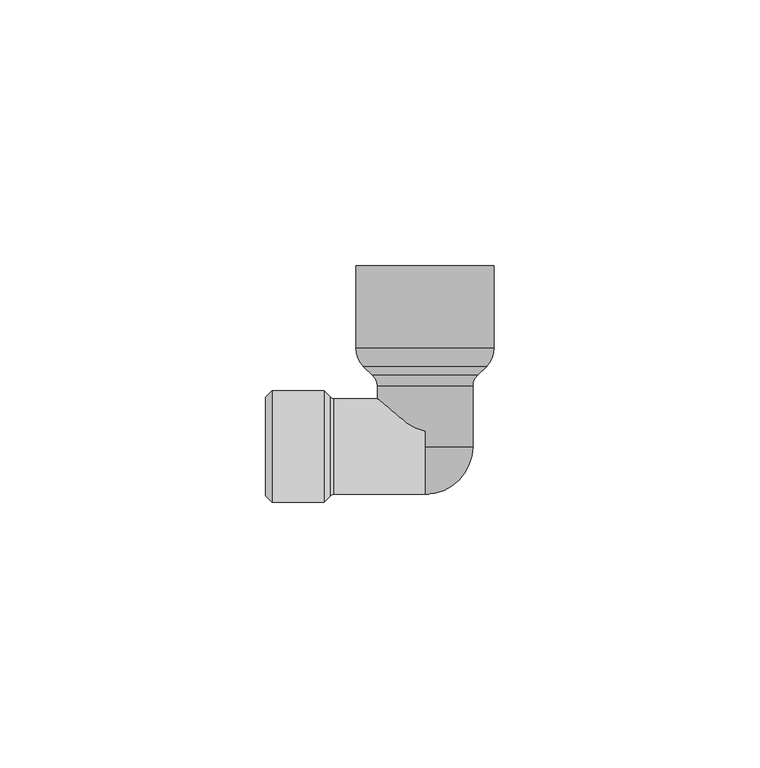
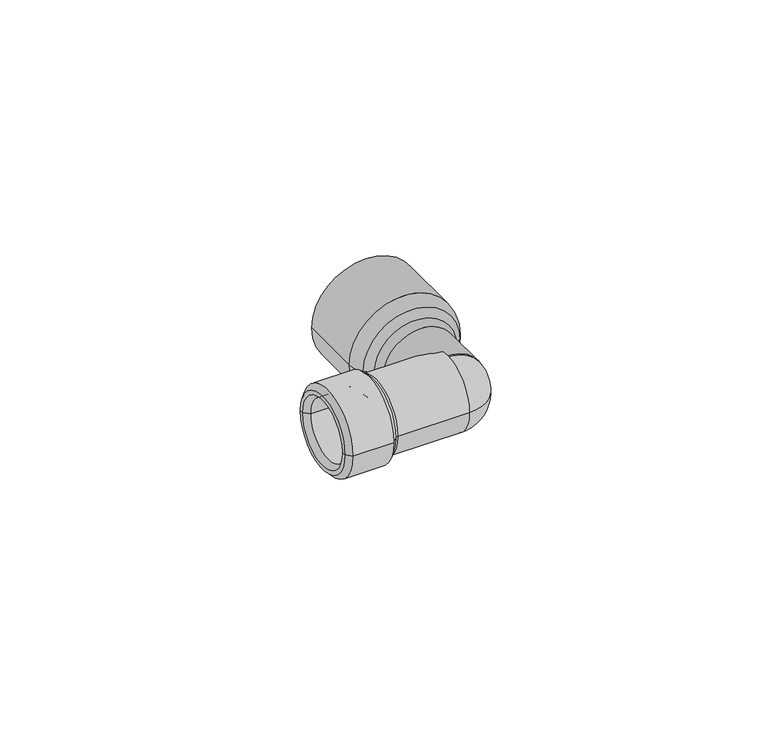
"""IFC4 building model written with IfcOpenShell, lengths in millimetres: pipe fitting geometry."""

from ifc_helpers import new_model, si_unit, point, frame, origin, origin_with_axes, place, context, project, spatial, polyline, circle_curve, ellipse_curve, trimmed, source, transform, mapped, element, save
from ifc_brep_helpers import plane_surface, cylinder_surface, revolved_surface, advanced_brep


def pipe_fitting_831a4182(model_context):
    return source(origin(), model_context, "Body", "AdvancedBrep", [
        advanced_brep(
        [(0.0, 8.9999802, 0.0), (0.0, -8.9999802, 0.0), (-17.0857864, -8.9999802, 0.0), (-17.0857864, 8.9999802, 0.0), (0.0, 6.7999851, 0.0), (0.0, -6.7999851, 0.0), (-19.8277125, 6.7999851, 0.0), (-19.8277125, -6.7999851, 0.0), (-21.0, 7.2499841, 0.0), (-21.0, -7.2499841, 0.0), (-28.6, 7.2499841, 0.0), (-28.6, -7.2499841, 0.0), (-30.0056445, 8.2808564, 0.0), (-30.0056445, -8.2808564, 0.0), (-30.0056445, 9.2693326, 0.0), (-30.0056445, -9.2693326, 0.0), (-28.8, 10.474977, 0.0), (-28.8, -10.474977, 0.0), (-18.9913544, 10.474977, 0.0), (-18.9913544, -10.474977, 0.0), (-17.8339225, 9.3175452, 0.0), (-17.8339225, -9.3175452, 0.0)],
        [
            (0, 1, circle_curve(frame((0.0, 0.0, 0.0), z_axis=(-1.0, 0.0, 0.0), x_axis=(0.0, -1.0, 0.0)), 8.9999802)),
            (1, 2),
            (2, 3, circle_curve(frame((-17.0857864, 0.0, 0.0), z_axis=(1.0, 0.0, 0.0), x_axis=(0.0, -1.0, 0.0)), 8.9999802)),
            (3, 0),
            (1, 0, circle_curve(frame((0.0, 0.0, 0.0), z_axis=(-1.0, 0.0, 0.0), x_axis=(0.0, -1.0, 0.0)), 8.9999802)),
            (3, 2, circle_curve(frame((-17.0857864, 0.0, 0.0), z_axis=(1.0, 0.0, 0.0), x_axis=(0.0, -1.0, 0.0)), 8.9999802)),
            (4, 5, circle_curve(frame((0.0, 0.0, 0.0), z_axis=(-1.0, 0.0, 0.0), x_axis=(0.0, -1.0, 0.0)), 6.7999851)),
            (5, 1),
            (0, 4),
            (5, 4, circle_curve(frame((0.0, 0.0, 0.0), z_axis=(-1.0, 0.0, 0.0), x_axis=(0.0, -1.0, 0.0)), 6.7999851)),
            (6, 7, circle_curve(frame((-19.8277125, 0.0, 0.0), z_axis=(-1.0, 0.0, 0.0), x_axis=(0.0, -1.0, 0.0)), 6.7999851)),
            (7, 5),
            (4, 6),
            (7, 6, circle_curve(frame((-19.8277125, 0.0, 0.0), z_axis=(-1.0, 0.0, 0.0), x_axis=(0.0, -1.0, 0.0)), 6.7999851)),
            (8, 9, circle_curve(frame((-21.0, 0.0, 0.0), z_axis=(-1.0, 0.0, 0.0), x_axis=(0.0, -1.0, 0.0)), 7.2499841)),
            (9, 7),
            (6, 8),
            (9, 8, circle_curve(frame((-21.0, 0.0, 0.0), z_axis=(-1.0, 0.0, 0.0), x_axis=(0.0, -1.0, 0.0)), 7.2499841)),
            (10, 11, circle_curve(frame((-28.6, 0.0, 0.0), z_axis=(-1.0, 0.0, 0.0), x_axis=(0.0, -1.0, 0.0)), 7.2499841)),
            (11, 9),
            (8, 10),
            (11, 10, circle_curve(frame((-28.6, 0.0, 0.0), z_axis=(-1.0, 0.0, 0.0), x_axis=(0.0, -1.0, 0.0)), 7.2499841)),
            (12, 13, circle_curve(frame((-30.0056445, 0.0, 0.0), z_axis=(-1.0, 0.0, 0.0), x_axis=(0.0, -1.0, 0.0)), 8.2808564)),
            (13, 11),
            (10, 12),
            (13, 12, circle_curve(frame((-30.0056445, 0.0, 0.0), z_axis=(-1.0, 0.0, 0.0), x_axis=(0.0, -1.0, 0.0)), 8.2808564)),
            (14, 15, circle_curve(frame((-30.0056445, 0.0, 0.0), z_axis=(-1.0, 0.0, 0.0), x_axis=(0.0, -1.0, 0.0)), 9.2693326)),
            (15, 13),
            (12, 14),
            (15, 14, circle_curve(frame((-30.0056445, 0.0, 0.0), z_axis=(-1.0, 0.0, 0.0), x_axis=(0.0, -1.0, 0.0)), 9.2693326)),
            (16, 17, circle_curve(frame((-28.8, 0.0, 0.0), z_axis=(-1.0, 0.0, 0.0), x_axis=(0.0, -1.0, 0.0)), 10.474977)),
            (17, 15),
            (14, 16),
            (17, 16, circle_curve(frame((-28.8, 0.0, 0.0), z_axis=(-1.0, 0.0, 0.0), x_axis=(0.0, -1.0, 0.0)), 10.474977)),
            (18, 19, circle_curve(frame((-18.9913544, 0.0, 0.0), z_axis=(-1.0, 0.0, 0.0), x_axis=(0.0, -1.0, 0.0)), 10.474977)),
            (19, 17),
            (16, 18),
            (19, 18, circle_curve(frame((-18.9913544, 0.0, 0.0), z_axis=(-1.0, 0.0, 0.0), x_axis=(0.0, -1.0, 0.0)), 10.474977)),
            (20, 21, circle_curve(frame((-17.8339225, 0.0, 0.0), z_axis=(-1.0, 0.0, 0.0), x_axis=(0.0, -1.0, 0.0)), 9.3175452)),
            (21, 19),
            (18, 20),
            (21, 20, circle_curve(frame((-17.8339225, 0.0, 0.0), z_axis=(-1.0, 0.0, 0.0), x_axis=(0.0, -1.0, 0.0)), 9.3175452)),
            (2, 21, circle_curve(frame((-17.0857864, -10.0400118, 0.0), z_axis=(0.0, 0.0, 1.0), x_axis=(1.0, 0.0, 0.0)), 1.0400316)),
            (20, 3, circle_curve(frame((-17.0857864, 10.0400118, 0.0), z_axis=(0.0, 0.0, 1.0), x_axis=(1.0, 0.0, 0.0)), 1.0400316)),
        ],
        [
            cylinder_surface(frame((-35.0056445, 0.0, 0.0), z_axis=(1.0, 0.0, 0.0), x_axis=(0.0, -1.0, 0.0)), 8.9999802),
            plane_surface(frame((0.0, 0.0, 0.0), z_axis=(1.0, 0.0, 0.0), x_axis=(0.0, -1.0, 0.0))),
            revolved_surface(polyline([(0.0, -6.7999851, 0.0), (-19.8277125, -6.7999851, 0.0)]), (-35.0056445, 0.0, 0.0), (1.0, 0.0, 0.0)),
            revolved_surface(polyline([(-19.8277125, -6.7999851, 0.0), (-21.0, -7.2499841, 0.0)]), (-35.0056445, 0.0, 0.0), (1.0, 0.0, 0.0)),
            revolved_surface(polyline([(-21.0, -7.2499841, 0.0), (-28.6, -7.2499841, 0.0)]), (-35.0056445, 0.0, 0.0), (1.0, 0.0, 0.0)),
            revolved_surface(polyline([(-28.6, -7.2499841, 0.0), (-30.0056445, -8.2808564, 0.0)]), (-35.0056445, 0.0, 0.0), (1.0, 0.0, 0.0)),
            plane_surface(frame((-30.0056445, 0.0, 0.0), z_axis=(-1.0, 0.0, 0.0), x_axis=(0.0, -1.0, 0.0))),
            revolved_surface(polyline([(-30.0056445, -9.2693326, 0.0), (-28.8, -10.474977, 0.0)]), (-35.0056445, 0.0, 0.0), (1.0, 0.0, 0.0)),
            cylinder_surface(frame((-35.0056445, 0.0, 0.0), z_axis=(1.0, 0.0, 0.0), x_axis=(0.0, -1.0, 0.0)), 10.474977),
            revolved_surface(polyline([(-18.9913544, -10.474977, 0.0), (-17.8339225, -9.3175452, 0.0)]), (-35.0056445, 0.0, 0.0), (1.0, 0.0, 0.0)),
            revolved_surface(trimmed(ellipse_curve(frame((-17.0857864, -10.0400118, 0.0), z_axis=(0.0, 0.0, -1.0), x_axis=(1.0, 0.0, 0.0)), 1.0400316, 1.0400316), [point((-17.8339225, -9.3175452, 0.0))], [point((-17.0857864, -8.9999802, 0.0))], True, "CARTESIAN"), (-35.0056445, 0.0, 0.0), (1.0, 0.0, 0.0)),
        ],
        [
            (0, [[1, 2, 3, 4]]),
            (0, [[5, -4, 6, -2]]),
            (1, [[7, 8, -1, 9]]),
            (1, [[10, -9, -5, -8]]),
            (2, [[11, 12, -7, 13]]),
            (2, [[14, -13, -10, -12]]),
            (3, [[15, 16, -11, 17]]),
            (3, [[18, -17, -14, -16]]),
            (4, [[19, 20, -15, 21]]),
            (4, [[22, -21, -18, -20]]),
            (5, [[23, 24, -19, 25]]),
            (5, [[26, -25, -22, -24]]),
            (6, [[27, 28, -23, 29]]),
            (6, [[30, -29, -26, -28]]),
            (7, [[31, 32, -27, 33]]),
            (7, [[34, -33, -30, -32]]),
            (8, [[35, 36, -31, 37]]),
            (8, [[38, -37, -34, -36]]),
            (9, [[39, 40, -35, 41]]),
            (9, [[42, -41, -38, -40]]),
            (10, [[-3, 43, -39, 44]]),
            (10, [[-6, -44, -42, -43]]),
        ],
    ),
        advanced_brep(
        [(-9.8933999, 13.3825807, 0.0), (9.8933999, 13.3825807, 0.0), (8.982283, 11.4286841, 0.0), (-8.982283, 11.4286841, 0.0), (-11.550469, 15.0396498, 0.0), (11.550469, 15.0396498, 0.0), (-12.9999715, 18.4544636, 0.0), (12.9999715, 18.4544636, 0.0), (-12.9999715, 34.0, 0.0), (12.9999715, 34.0, 0.0), (-9.3149796, 34.0, 0.0), (9.3149796, 34.0, 0.0), (-9.3149796, 17.5, 0.0), (9.3149796, 17.5, 0.0), (-6.7999851, 14.9850055, 0.0), (6.7999851, 14.9850055, 0.0), (-6.7999851, 0.0, 0.0), (6.7999851, 0.0, 0.0), (-8.982283, 0.0, 0.0), (8.982283, 0.0, 0.0)],
        [
            (0, 1, circle_curve(frame((0.0, 13.3825807, 0.0), z_axis=(0.0, -1.0, 0.0), x_axis=(1.0, 0.0, 0.0)), 9.8933999)),
            (1, 2, circle_curve(frame((11.5329138, 11.4286841, 0.0), z_axis=(0.0, 0.0, 1.0), x_axis=(1.0, 0.0, 0.0)), 2.5506308)),
            (2, 3, circle_curve(frame((0.0, 11.4286841, 0.0), z_axis=(0.0, 1.0, 0.0), x_axis=(1.0, 0.0, 0.0)), 8.982283)),
            (3, 0, circle_curve(frame((-11.5329138, 11.4286841, 0.0), z_axis=(0.0, 0.0, 1.0), x_axis=(-1.0, 0.0, 0.0)), 2.5506308)),
            (1, 0, circle_curve(frame((0.0, 13.3825807, 0.0), z_axis=(0.0, -1.0, 0.0), x_axis=(1.0, 0.0, 0.0)), 9.8933999)),
            (3, 2, circle_curve(frame((0.0, 11.4286841, 0.0), z_axis=(0.0, 1.0, 0.0), x_axis=(1.0, 0.0, 0.0)), 8.982283)),
            (4, 5, circle_curve(frame((0.0, 15.0396498, 0.0), z_axis=(0.0, -1.0, 0.0), x_axis=(1.0, 0.0, 0.0)), 11.550469)),
            (5, 1),
            (0, 4),
            (5, 4, circle_curve(frame((0.0, 15.0396498, 0.0), z_axis=(0.0, -1.0, 0.0), x_axis=(1.0, 0.0, 0.0)), 11.550469)),
            (6, 7, circle_curve(frame((0.0, 18.4544636, 0.0), z_axis=(0.0, -1.0, 0.0), x_axis=(1.0, 0.0, 0.0)), 12.9999715)),
            (7, 5, circle_curve(frame((8.0492399, 18.5408789, 0.0), z_axis=(0.0, 0.0, -1.0), x_axis=(1.0, 0.0, 0.0)), 4.9514857)),
            (4, 6, circle_curve(frame((-8.0492399, 18.5408789, 0.0), z_axis=(0.0, 0.0, -1.0), x_axis=(-1.0, 0.0, 0.0)), 4.9514857)),
            (7, 6, circle_curve(frame((0.0, 18.4544636, 0.0), z_axis=(0.0, -1.0, 0.0), x_axis=(1.0, 0.0, 0.0)), 12.9999715)),
            (8, 9, circle_curve(frame((0.0, 34.0, 0.0), z_axis=(0.0, -1.0, 0.0), x_axis=(1.0, 0.0, 0.0)), 12.9999715)),
            (9, 7),
            (6, 8),
            (9, 8, circle_curve(frame((0.0, 34.0, 0.0), z_axis=(0.0, -1.0, 0.0), x_axis=(1.0, 0.0, 0.0)), 12.9999715)),
            (10, 11, circle_curve(frame((0.0, 34.0, 0.0), z_axis=(0.0, -1.0, 0.0), x_axis=(1.0, 0.0, 0.0)), 9.3149796)),
            (11, 9),
            (8, 10),
            (11, 10, circle_curve(frame((0.0, 34.0, 0.0), z_axis=(0.0, -1.0, 0.0), x_axis=(1.0, 0.0, 0.0)), 9.3149796)),
            (12, 13, circle_curve(frame((0.0, 17.5, 0.0), z_axis=(0.0, -1.0, 0.0), x_axis=(1.0, 0.0, 0.0)), 9.3149796)),
            (13, 11),
            (10, 12),
            (13, 12, circle_curve(frame((0.0, 17.5, 0.0), z_axis=(0.0, -1.0, 0.0), x_axis=(1.0, 0.0, 0.0)), 9.3149796)),
            (14, 15, circle_curve(frame((0.0, 14.9850055, 0.0), z_axis=(0.0, -1.0, 0.0), x_axis=(1.0, 0.0, 0.0)), 6.7999851)),
            (15, 13),
            (12, 14),
            (15, 14, circle_curve(frame((0.0, 14.9850055, 0.0), z_axis=(0.0, -1.0, 0.0), x_axis=(1.0, 0.0, 0.0)), 6.7999851)),
            (16, 17, circle_curve(frame((0.0, 0.0, 0.0), z_axis=(0.0, -1.0, 0.0), x_axis=(1.0, 0.0, 0.0)), 6.7999851)),
            (17, 15),
            (14, 16),
            (17, 16, circle_curve(frame((0.0, 0.0, 0.0), z_axis=(0.0, -1.0, 0.0), x_axis=(1.0, 0.0, 0.0)), 6.7999851)),
            (18, 19, circle_curve(frame((0.0, 0.0, 0.0), z_axis=(0.0, -1.0, 0.0), x_axis=(1.0, 0.0, 0.0)), 8.982283)),
            (19, 17),
            (16, 18),
            (19, 18, circle_curve(frame((0.0, 0.0, 0.0), z_axis=(0.0, -1.0, 0.0), x_axis=(1.0, 0.0, 0.0)), 8.982283)),
            (2, 19),
            (18, 3),
        ],
        [
            revolved_surface(trimmed(ellipse_curve(frame((11.5329138, 11.4286841, 0.0), z_axis=(0.0, 0.0, -1.0), x_axis=(1.0, 0.0, 0.0)), 2.5506308, 2.5506308), [point((8.982283, 11.4286841, 0.0))], [point((9.8933999, 13.3825807, 0.0))], True, "CARTESIAN"), (0.0, 35.7424359, 0.0), (0.0, 1.0, 0.0)),
            revolved_surface(polyline([(9.8933999, 13.3825807, 0.0), (11.550469, 15.0396498, 0.0)]), (0.0, 35.7424359, 0.0), (0.0, 1.0, 0.0)),
            revolved_surface(trimmed(ellipse_curve(frame((8.0492399, 18.5408789, 0.0), z_axis=(0.0, 0.0, 1.0), x_axis=(1.0, 0.0, 0.0)), 4.9514857, 4.9514857), [point((11.550469, 15.0396498, 0.0))], [point((12.9999715, 18.4544636, 0.0))], True, "CARTESIAN"), (0.0, 35.7424359, 0.0), (0.0, 1.0, 0.0)),
            cylinder_surface(frame((0.0, 35.7424359, 0.0), z_axis=(0.0, 1.0, 0.0), x_axis=(1.0, 0.0, 0.0)), 12.9999715),
            plane_surface(frame((0.0, 34.0, 0.0), z_axis=(0.0, 1.0, 0.0), x_axis=(1.0, 0.0, 0.0))),
            revolved_surface(polyline([(9.3149796, 34.0, 0.0), (9.3149796, 17.5, 0.0)]), (0.0, 35.7424359, 0.0), (0.0, 1.0, 0.0)),
            revolved_surface(polyline([(9.3149796, 17.5, 0.0), (6.7999851, 14.9850055, 0.0)]), (0.0, 35.7424359, 0.0), (0.0, 1.0, 0.0)),
            revolved_surface(polyline([(6.7999851, 14.9850055, 0.0), (6.7999851, 0.0, 0.0)]), (0.0, 35.7424359, 0.0), (0.0, 1.0, 0.0)),
            plane_surface(frame((0.0, 0.0, 0.0), z_axis=(0.0, -1.0, 0.0), x_axis=(1.0, 0.0, 0.0))),
            cylinder_surface(frame((0.0, 35.7424359, 0.0), z_axis=(0.0, 1.0, 0.0), x_axis=(1.0, 0.0, 0.0)), 8.982283),
        ],
        [
            (0, [[1, 2, 3, 4]]),
            (0, [[5, -4, 6, -2]]),
            (1, [[7, 8, -1, 9]]),
            (1, [[10, -9, -5, -8]]),
            (2, [[11, 12, -7, 13]]),
            (2, [[14, -13, -10, -12]]),
            (3, [[15, 16, -11, 17]]),
            (3, [[18, -17, -14, -16]]),
            (4, [[19, 20, -15, 21]]),
            (4, [[22, -21, -18, -20]]),
            (5, [[23, 24, -19, 25]]),
            (5, [[26, -25, -22, -24]]),
            (6, [[27, 28, -23, 29]]),
            (6, [[30, -29, -26, -28]]),
            (7, [[31, 32, -27, 33]]),
            (7, [[34, -33, -30, -32]]),
            (8, [[35, 36, -31, 37]]),
            (8, [[38, -37, -34, -36]]),
            (9, [[-3, 39, -35, 40]]),
            (9, [[-6, -40, -38, -39]]),
        ],
    ),
        advanced_brep(
        [(0.0, 0.0, 0.0), (8.982283, 0.0, 0.0), (-8.982283, 0.0, 0.0), (0.0, -8.982283, 0.0)],
        [
            (0, 1),
            (1, 2, circle_curve(frame((0.0, 0.0, 0.0), z_axis=(0.0, 1.0, 0.0), x_axis=(1.0, 0.0, 0.0)), 8.982283)),
            (2, 0),
            (2, 1, circle_curve(frame((0.0, 0.0, 0.0), z_axis=(0.0, 1.0, 0.0), x_axis=(1.0, 0.0, 0.0)), 8.982283)),
            (1, 3, circle_curve(frame((0.0, 0.0, 0.0), z_axis=(0.0, 0.0, -1.0), x_axis=(1.0, 0.0, 0.0)), 8.982283)),
            (3, 2, circle_curve(frame((0.0, 0.0, 0.0), z_axis=(0.0, 0.0, -1.0), x_axis=(-1.0, 0.0, 0.0)), 8.982283)),
        ],
        [
            plane_surface(frame((0.0, 0.0, 0.0), z_axis=(0.0, 1.0, 0.0), x_axis=(1.0, 0.0, 0.0))),
            revolved_surface(trimmed(ellipse_curve(origin_with_axes(), 8.982283, 8.982283), [point((0.0, -8.982283, 0.0))], [point((8.982283, 0.0, 0.0))], True, "CARTESIAN"), (0.0, 4.7217995, 0.0), (0.0, 1.0, 0.0)),
        ],
        [
            (0, [[1, 2, 3]]),
            (0, [[-3, 4, -1]]),
            (1, [[-2, 5, 6]]),
            (1, [[-4, -6, -5]]),
        ],
    ),
    ])


if __name__ == "__main__":
    model = new_model("IFC4")
    model_context = context("Model", 3, world=origin())
    ifc_project = project(units=[si_unit("LENGTHUNIT", "METRE", prefix="MILLI")], contexts=[model_context])
    site = spatial("IfcSite", under=ifc_project)
    building = spatial("IfcBuilding", under=site)
    placement = place(None, origin())
    pipe_fitting_shape = pipe_fitting_831a4182(model_context)
    element("IfcPipeFitting", 1, ObjectType="Conversion Elbow 1/2\"MT-1/2\"FT : Superpipe Conversion Elbow - 1/2\"MT-1/2\"FT", at=placement, inside=building, context=model_context, shape_type="MappedRepresentation", body=[
        mapped(pipe_fitting_shape, transform((0.0, 0.0, 0.0), x_axis=(1.0, 0.0, 0.0), y_axis=(0.0, 1.0, 0.0), z_axis=(0.0, 0.0, 1.0))),
    ])
    save(model, "model.ifc")
